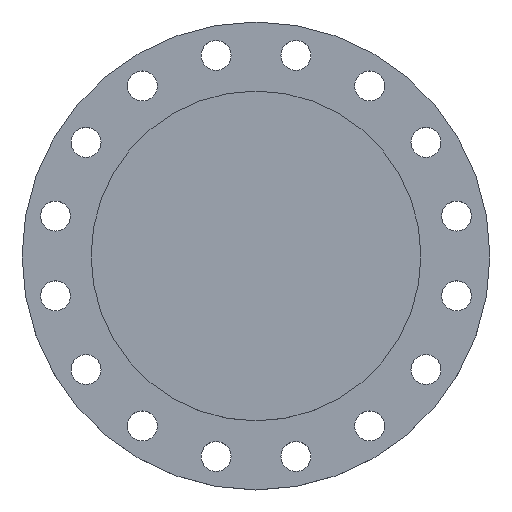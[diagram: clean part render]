
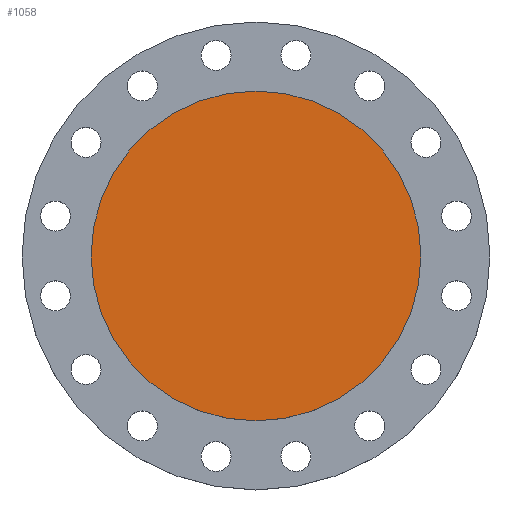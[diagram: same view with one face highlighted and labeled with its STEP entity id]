
A CAD part, top view. The second image highlights one B-rep face of the part: STEP entity #1058.
In plain terms, the highlighted planar face has unit normal (0, 0, 1).
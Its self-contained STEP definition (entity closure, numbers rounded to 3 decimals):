
#212 = VERTEX_POINT ( 'NONE', #646 ) ;
#281 = CIRCLE ( 'NONE', #989, 181.5 ) ;
#421 = CIRCLE ( 'NONE', #431, 181.5 ) ;
#431 = AXIS2_PLACEMENT_3D ( 'NONE', #1360, #1334, #1324 ) ;
#646 = CARTESIAN_POINT ( 'NONE',  ( -181.5, 0., 0. ) ) ;
#702 = AXIS2_PLACEMENT_3D ( 'NONE', #1228, #1222, #1211 ) ;
#947 = EDGE_CURVE ( 'NONE', #212, #1112, #421, .T. ) ;
#989 = AXIS2_PLACEMENT_3D ( 'NONE', #1104, #1103, #1100 ) ;
#1058 = ADVANCED_FACE ( 'NONE', ( #1238 ), #1233, .T. ) ;
#1100 = DIRECTION ( 'NONE',  ( -1., 0., 0. ) ) ;
#1103 = DIRECTION ( 'NONE',  ( 0., 0., -1. ) ) ;
#1104 = CARTESIAN_POINT ( 'NONE',  ( 0., 0., 0. ) ) ;
#1112 = VERTEX_POINT ( 'NONE', #1122 ) ;
#1117 = EDGE_CURVE ( 'NONE', #1112, #212, #281, .T. ) ;
#1122 = CARTESIAN_POINT ( 'NONE',  ( 181.5, 0., 0. ) ) ;
#1211 = DIRECTION ( 'NONE',  ( 1., 0., 0. ) ) ;
#1222 = DIRECTION ( 'NONE',  ( 0., 0., 1. ) ) ;
#1228 = CARTESIAN_POINT ( 'NONE',  ( 0., 0., 0. ) ) ;
#1233 = PLANE ( 'NONE',  #702 ) ;
#1238 = FACE_OUTER_BOUND ( 'NONE', #1308, .T. ) ;
#1308 = EDGE_LOOP ( 'NONE', ( #1413, #1409 ) ) ;
#1324 = DIRECTION ( 'NONE',  ( -1., 0., 0. ) ) ;
#1334 = DIRECTION ( 'NONE',  ( 0., 0., -1. ) ) ;
#1360 = CARTESIAN_POINT ( 'NONE',  ( 0., 0., 0. ) ) ;
#1409 = ORIENTED_EDGE ( 'NONE', *, *, #1117, .F. ) ;
#1413 = ORIENTED_EDGE ( 'NONE', *, *, #947, .F. ) ;
